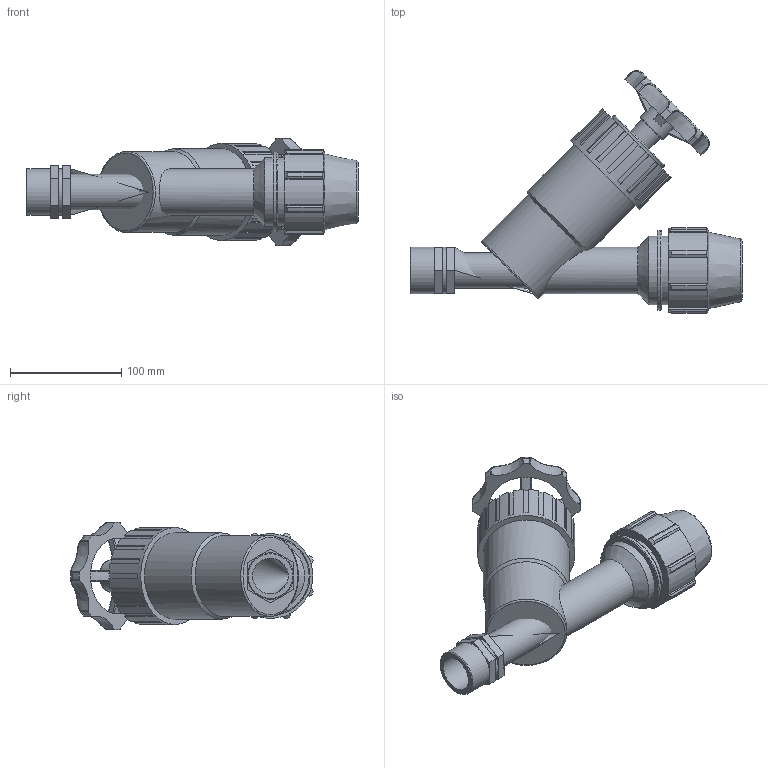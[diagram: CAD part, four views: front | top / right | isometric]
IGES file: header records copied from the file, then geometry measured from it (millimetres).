
Global section: file name: 03948400.ipt; native system: Autodesk Inventor 2015; preprocessor: unknown; author: KIM; date: 20180916.173735; units: millimetre
Bounding box: 299 x 218.43 x 97.19 mm (x, y, z)
Volume: 1164754.4 mm3; surface area: 148981.9 mm2
Topology: 1 solids, 1 shells, 272 faces, 756 edges, 497 vertices
Faces by surface type: plane 130, cylinder 73, revolution 28, bspline 24, cone 17
Full cylindrical faces by diameter (mm): 23.328 x1, 29.16 x1, 41.91 x4, 61.5 x2, 64.152 x1, 71.34 x1, 72.9 x1, 77.76 x1, 87.48 x1
